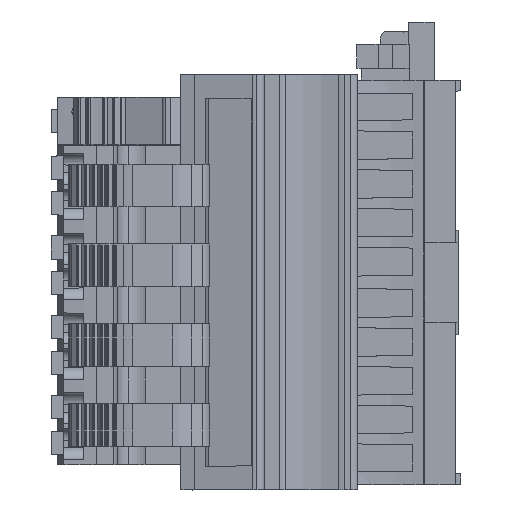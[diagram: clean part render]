
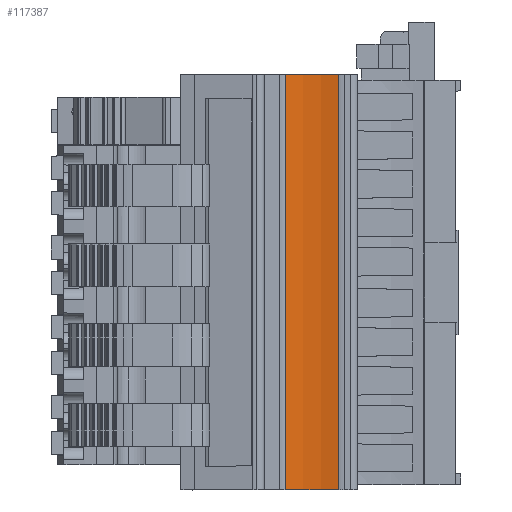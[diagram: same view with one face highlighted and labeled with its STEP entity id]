
A CAD part, left-side view. The second image highlights one B-rep face of the part: STEP entity #117387.
In plain terms, the highlighted cylindrical face has radius 15.05 mm (diameter 30.1 mm), a partial arc.
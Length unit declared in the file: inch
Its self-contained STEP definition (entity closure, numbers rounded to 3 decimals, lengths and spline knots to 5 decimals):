
#29942=CARTESIAN_POINT('',(-3.58303,0.53937,
2.08071));
#29943=DIRECTION('',(0.,0.,-1.));
#29944=DIRECTION('',(0.976,0.22,0.));
#29945=AXIS2_PLACEMENT_3D('',#29942,#29943,#29944);
#29969=CARTESIAN_POINT('',(-3.58303,0.53937,
-0.02953));
#29970=DIRECTION('',(0.,0.,1.));
#29971=DIRECTION('',(0.97,-0.243,0.));
#29972=AXIS2_PLACEMENT_3D('',#29969,#29970,#29971);
#30096=DIRECTION('',(0.,0.,-1.));
#30097=VECTOR('',#30096,2.11024);
#30098=CARTESIAN_POINT('',(-3.00499,0.66954,
2.08071));
#30099=LINE('',#30098,#30097);
#30100=DIRECTION('',(0.,0.,-1.));
#30101=VECTOR('',#30100,2.11024);
#30102=CARTESIAN_POINT('',(-3.00827,0.3954,
2.08071));
#30103=LINE('',#30102,#30101);
#63253=CARTESIAN_POINT('',(-3.00499,0.66954,
2.08071));
#63254=VERTEX_POINT('',#63253);
#63255=CARTESIAN_POINT('',(-3.00499,0.66954,
-0.02953));
#63256=VERTEX_POINT('',#63255);
#63529=CARTESIAN_POINT('',(-3.00827,0.3954,
2.08071));
#63530=VERTEX_POINT('',#63529);
#63531=CARTESIAN_POINT('',(-3.00827,0.3954,
-0.02953));
#63532=VERTEX_POINT('',#63531);
#117375=CARTESIAN_POINT('',(-3.58303,0.53937,
5.10236));
#117376=DIRECTION('',(0.,0.,1.));
#117377=DIRECTION('',(1.,0.,0.));
#117378=AXIS2_PLACEMENT_3D('',#117375,#117376,#117377);
#117379=CYLINDRICAL_SURFACE('',#117378,0.59252);
#117380=ORIENTED_EDGE('',*,*,#117369,.F.);
#117381=ORIENTED_EDGE('',*,*,#117254,.T.);
#117383=ORIENTED_EDGE('',*,*,#117382,.T.);
#117384=ORIENTED_EDGE('',*,*,#117299,.T.);
#117385=EDGE_LOOP('',(#117380,#117381,#117383,#117384));
#117386=FACE_OUTER_BOUND('',#117385,.F.);
#117387=ADVANCED_FACE('',(#117386),#117379,.F.);
#29946=CIRCLE('',#29945,0.59252);
#29973=CIRCLE('',#29972,0.59252);
#117254=EDGE_CURVE('',#63254,#63530,#29946,.T.);
#117299=EDGE_CURVE('',#63532,#63256,#29973,.T.);
#117369=EDGE_CURVE('',#63254,#63256,#30099,.T.);
#117382=EDGE_CURVE('',#63530,#63532,#30103,.T.);
